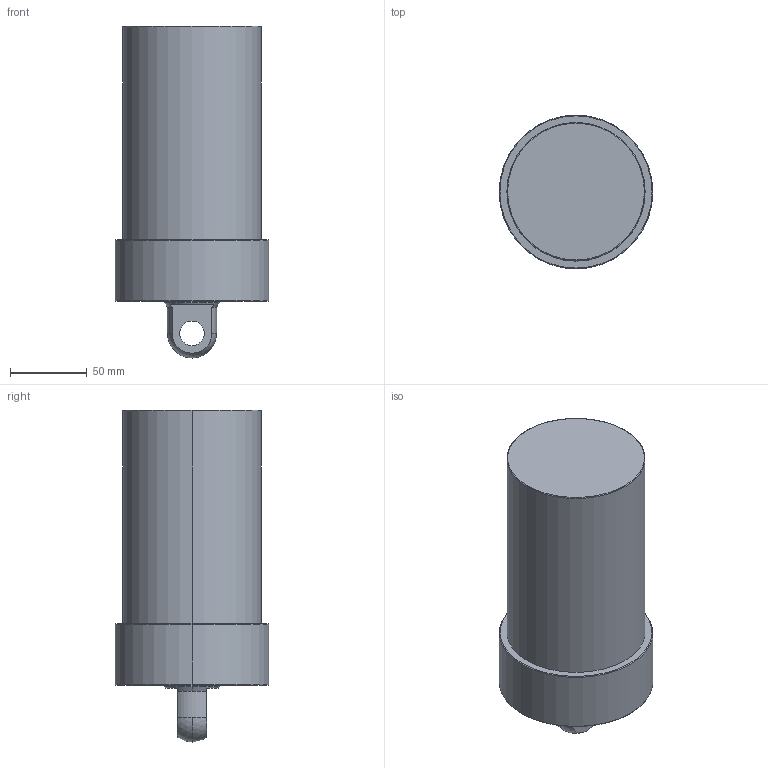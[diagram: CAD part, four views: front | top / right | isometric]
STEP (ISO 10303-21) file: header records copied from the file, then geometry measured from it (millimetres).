
FILE_DESCRIPTION (( 'STEP AP203' ), '1' );
FILE_NAME ('CLLU-090GP-095.STEP', '2020-01-15T01:45:22', ( '' ), ( '' ), 'SwSTEP 2.0', 'SolidWorks 2015', '' );
FILE_SCHEMA (( 'CONFIG_CONTROL_DESIGN' ));
Length unit declared in the file: millimetre
Products named in the file (1): CLLU-090GP-095
Bounding box: 100 x 100 x 216 mm (x, y, z)
Volume: 1207442 mm3; surface area: 73756.6 mm2
Topology: 1 solids, 1 shells, 58 faces, 131 edges, 75 vertices
Faces by surface type: cylinder 23, cone 18, plane 9, torus 6, sphere 2
Entity records: 1658 total; most frequent: DIRECTION 311, CARTESIAN_POINT 269, ORIENTED_EDGE 246, AXIS2_PLACEMENT_3D 133, EDGE_CURVE 123, VERTEX_POINT 75, CIRCLE 74, EDGE_LOOP 68
